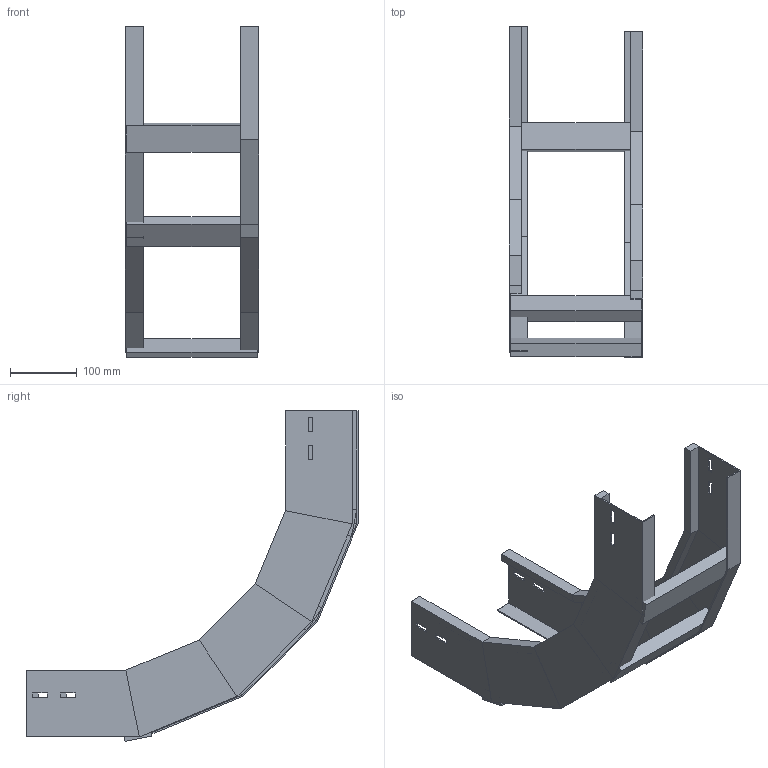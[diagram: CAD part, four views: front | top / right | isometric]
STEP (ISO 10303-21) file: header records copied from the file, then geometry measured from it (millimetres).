
FILE_DESCRIPTION (( 'STEP AP214' ), '1' );
FILE_NAME ('A2X30B3D200XX.step', '2025-04-02T08:54:37', ( '' ), ( '' ), 'SwSTEP 2.0', 'SolidWorks 2023', '' );
FILE_SCHEMA (( 'AUTOMOTIVE_DESIGN' ));
Length unit declared in the file: millimetre
Products named in the file (3): A2X30B3D200XX; LONGH.SALITA_90°_H100_R300; TRAVERSINO_200
Assembly tree (5 placements, depth 2):
  A2X30B3D200XX
    LONGH.SALITA_90°_H100_R300  x2
    TRAVERSINO_200  x3
Bounding box: 200 x 497.32 x 495.32 mm (x, y, z)
Volume: 1104586.2 mm3; surface area: 500053.5 mm2
Topology: 5 solids, 5 shells, 134 faces, 308 edges, 184 vertices
Faces by surface type: plane 134
Entity records: 1864 total; most frequent: CARTESIAN_POINT 308, ORIENTED_EDGE 296, DIRECTION 292, EDGE_CURVE 148, LINE 148, VECTOR 148, VERTEX_POINT 88, EDGE_LOOP 72
